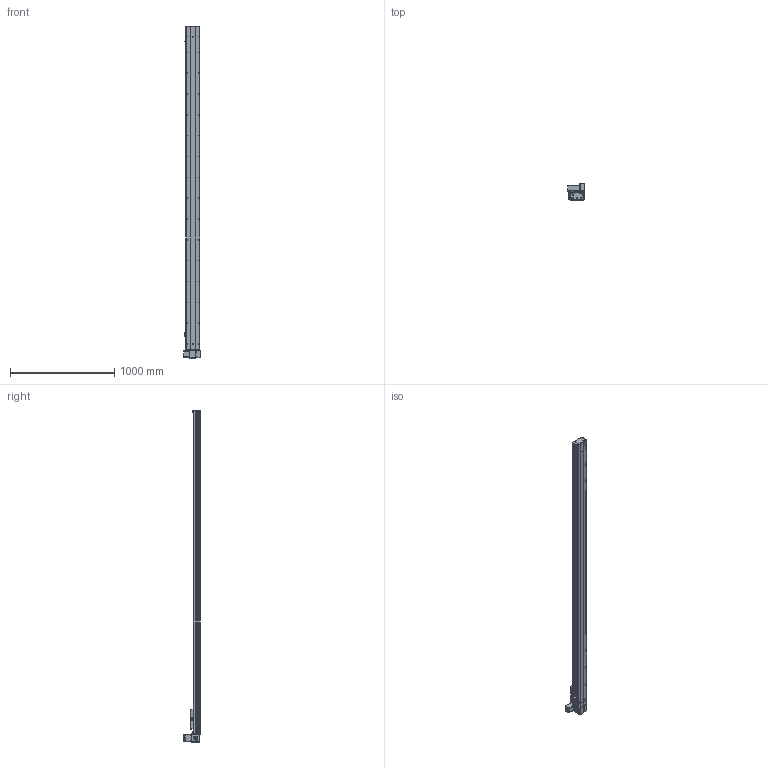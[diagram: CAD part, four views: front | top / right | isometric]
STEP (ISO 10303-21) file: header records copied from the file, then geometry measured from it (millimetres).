
FILE_DESCRIPTION (( 'STEP AP203' ), '1' );
FILE_NAME ('Y135CB-D90-S2800-UL-P400W.STEP', '2020-02-18T08:12:31', ( '微软用户' ), ( '微软中国' ), 'SwSTEP 2.0', 'SolidWorks 2017', '' );
FILE_SCHEMA (( 'CONFIG_CONTROL_DESIGN' ));
Length unit declared in the file: millimetre
Products named in the file (18): C-雄赽釱--; 0B-萇儂楊擘啣; Y10B-耜蚾蟀諉啣----; san松下电机400不带刹车----; 00B-俋欶BM--; 5CB --掛极耜裔啣-; Y10B--々湍喘謫眊--666; C-詩湍揤踡え-陔; Y135CB-耜裔; Y135CB-D90-S2800-UL-P400W; 135CB--詩湍-CE; 135CB---遴掛极.-; Y100-135俋离換覜ん--; 35CB---喘謫眊楊擘啣; Y135C-陔俋离換覜結え-; 0B-埴倛裔啣; 5C--俋欶; 0B-源倛裔啣
Assembly tree (21 placements, depth 2):
  Y135CB-D90-S2800-UL-P400W
    Y135CB-耜裔
    135CB---遴掛极.-
    35CB---喘謫眊楊擘啣
    0B-埴倛裔啣
    0B-源倛裔啣
    0B-萇儂楊擘啣
    san松下电机400不带刹车----
    5CB --掛极耜裔啣-  x2
    C-詩湍揤踡え-陔  x2
    135CB--詩湍-CE
    Y100-135俋离換覜ん--  x3
    Y135C-陔俋离換覜結え-
    5C--俋欶
    C-雄赽釱--
    Y10B-耜蚾蟀諉啣----
    00B-俋欶BM--
    Y10B--々湍喘謫眊--666
Bounding box: 157 x 158.7 x 3188 mm (x, y, z)
Volume: 9060892.9 mm3; surface area: 3592760 mm2
Topology: 21 solids, 21 shells, 981 faces, 2689 edges, 1782 vertices
Faces by surface type: cylinder 509, plane 456, cone 16
Entity records: 31167 total; most frequent: CARTESIAN_POINT 5208, DIRECTION 5181, ORIENTED_EDGE 4854, EDGE_CURVE 2427, AXIS2_PLACEMENT_3D 1903, VERTEX_POINT 1610, VECTOR 1375, LINE 1375
